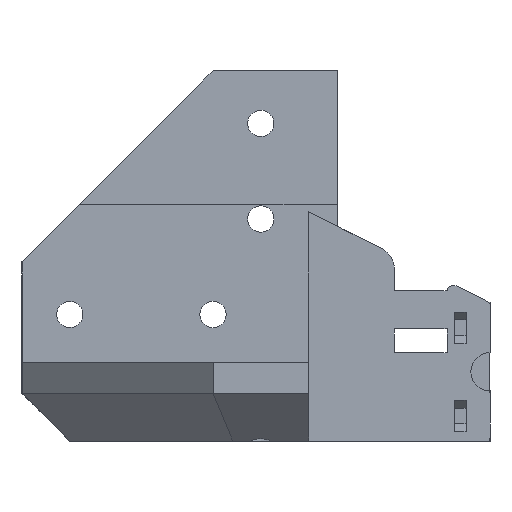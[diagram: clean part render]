
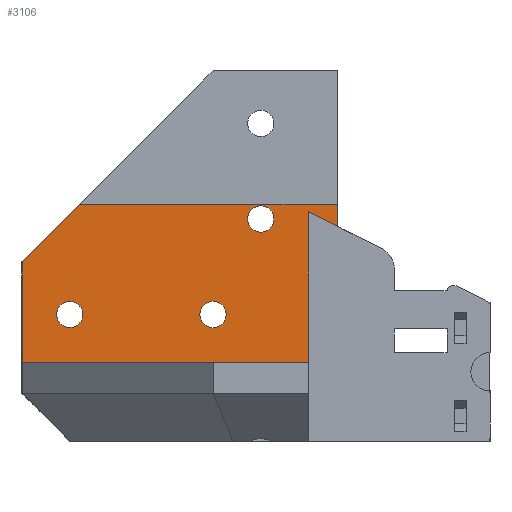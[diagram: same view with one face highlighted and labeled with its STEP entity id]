
A CAD part, front view. The second image highlights one B-rep face of the part: STEP entity #3106.
In plain terms, the highlighted planar face has unit normal (0, -1, 0) as drawn and (0, 0, 1) by its records, which use the part's own axes.
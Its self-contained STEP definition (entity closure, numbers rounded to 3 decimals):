
#50=FACE_BOUND('',#1156,.T.);
#51=FACE_BOUND('',#1157,.T.);
#52=FACE_BOUND('',#1158,.T.);
#297=LINE('',#5128,#590);
#373=LINE('',#5337,#666);
#385=LINE('',#5363,#678);
#450=LINE('',#5540,#743);
#461=LINE('',#5563,#754);
#463=LINE('',#5567,#756);
#468=LINE('',#5576,#761);
#590=VECTOR('',#3547,10.);
#666=VECTOR('',#3749,10.);
#678=VECTOR('',#3775,10.);
#743=VECTOR('',#3944,10.);
#754=VECTOR('',#3967,10.);
#756=VECTOR('',#3971,10.);
#761=VECTOR('',#3982,10.);
#959=FACE_OUTER_BOUND('',#1155,.T.);
#1155=EDGE_LOOP('',(#2787,#2788,#2789,#2790,#2791,#2792,#2793));
#1156=EDGE_LOOP('',(#2794));
#1157=EDGE_LOOP('',(#2795));
#1158=EDGE_LOOP('',(#2796));
#1200=CIRCLE('',#3223,2.75);
#1202=CIRCLE('',#3226,2.75);
#1204=CIRCLE('',#3229,2.75);
#1380=VERTEX_POINT('',#5125);
#1381=VERTEX_POINT('',#5127);
#1435=VERTEX_POINT('',#5281);
#1437=VERTEX_POINT('',#5287);
#1439=VERTEX_POINT('',#5293);
#1450=VERTEX_POINT('',#5334);
#1451=VERTEX_POINT('',#5336);
#1518=VERTEX_POINT('',#5538);
#1524=VERTEX_POINT('',#5561);
#1525=VERTEX_POINT('',#5565);
#1738=EDGE_CURVE('',#1381,#1380,#297,.T.);
#1813=EDGE_CURVE('',#1435,#1435,#1200,.T.);
#1816=EDGE_CURVE('',#1437,#1437,#1202,.T.);
#1819=EDGE_CURVE('',#1439,#1439,#1204,.T.);
#1840=EDGE_CURVE('',#1451,#1450,#373,.T.);
#1854=EDGE_CURVE('',#1380,#1451,#385,.T.);
#1942=EDGE_CURVE('',#1518,#1450,#450,.T.);
#1954=EDGE_CURVE('',#1518,#1524,#461,.T.);
#1956=EDGE_CURVE('',#1525,#1524,#463,.T.);
#1961=EDGE_CURVE('',#1381,#1525,#468,.T.);
#2787=ORIENTED_EDGE('',*,*,#1942,.F.);
#2788=ORIENTED_EDGE('',*,*,#1954,.T.);
#2789=ORIENTED_EDGE('',*,*,#1956,.F.);
#2790=ORIENTED_EDGE('',*,*,#1961,.F.);
#2791=ORIENTED_EDGE('',*,*,#1738,.T.);
#2792=ORIENTED_EDGE('',*,*,#1854,.T.);
#2793=ORIENTED_EDGE('',*,*,#1840,.T.);
#2794=ORIENTED_EDGE('',*,*,#1813,.T.);
#2795=ORIENTED_EDGE('',*,*,#1816,.T.);
#2796=ORIENTED_EDGE('',*,*,#1819,.T.);
#2943=PLANE('',#3314);
#3106=ADVANCED_FACE('',(#959,#50,#51,#52),#2943,.T.);
#3223=AXIS2_PLACEMENT_3D('',#5283,#3689,#3690);
#3226=AXIS2_PLACEMENT_3D('',#5289,#3696,#3697);
#3229=AXIS2_PLACEMENT_3D('',#5295,#3703,#3704);
#3314=AXIS2_PLACEMENT_3D('',#5578,#3984,#3985);
#3547=DIRECTION('',(0.,1.,0.));
#3689=DIRECTION('center_axis',(0.,0.,-1.));
#3690=DIRECTION('ref_axis',(-1.,0.,0.));
#3696=DIRECTION('center_axis',(0.,0.,-1.));
#3697=DIRECTION('ref_axis',(-1.,0.,0.));
#3703=DIRECTION('center_axis',(0.,0.,-1.));
#3704=DIRECTION('ref_axis',(-1.,0.,0.));
#3749=DIRECTION('',(0.447,0.894,0.));
#3775=DIRECTION('',(-1.,0.,0.));
#3944=DIRECTION('',(1.,0.,0.));
#3967=DIRECTION('',(0.,-1.,0.));
#3971=DIRECTION('',(-0.707,0.707,0.));
#3982=DIRECTION('',(-1.,0.,0.));
#3984=DIRECTION('center_axis',(0.,0.,1.));
#3985=DIRECTION('ref_axis',(1.,0.,0.));
#5125=CARTESIAN_POINT('',(10.,300.,-330.));
#5127=CARTESIAN_POINT('',(10.,240.,-330.));
#5128=CARTESIAN_POINT('',(10.,300.,-330.));
#5281=CARTESIAN_POINT('',(2.75,280.,-330.));
#5283=CARTESIAN_POINT('Origin',(0.,280.,-330.));
#5287=CARTESIAN_POINT('',(-17.25,290.,-330.));
#5289=CARTESIAN_POINT('Origin',(-20.,290.,-330.));
#5293=CARTESIAN_POINT('',(2.75,250.,-330.));
#5295=CARTESIAN_POINT('Origin',(0.,250.,-330.));
#5334=CARTESIAN_POINT('',(-18.5,306.,-330.));
#5336=CARTESIAN_POINT('',(-21.5,300.,-330.));
#5337=CARTESIAN_POINT('',(-16.9,309.2,-330.));
#5363=CARTESIAN_POINT('',(-184.75,300.,-330.));
#5538=CARTESIAN_POINT('',(-23.,306.,-330.));
#5540=CARTESIAN_POINT('',(-23.,306.,-330.));
#5561=CARTESIAN_POINT('',(-23.,252.,-330.));
#5563=CARTESIAN_POINT('',(-23.,300.,-330.));
#5565=CARTESIAN_POINT('',(-11.,240.,-330.));
#5567=CARTESIAN_POINT('',(-39.,268.,-330.));
#5576=CARTESIAN_POINT('',(-1.625,240.,-330.));
#5578=CARTESIAN_POINT('Origin',(-23.,300.,-330.));
